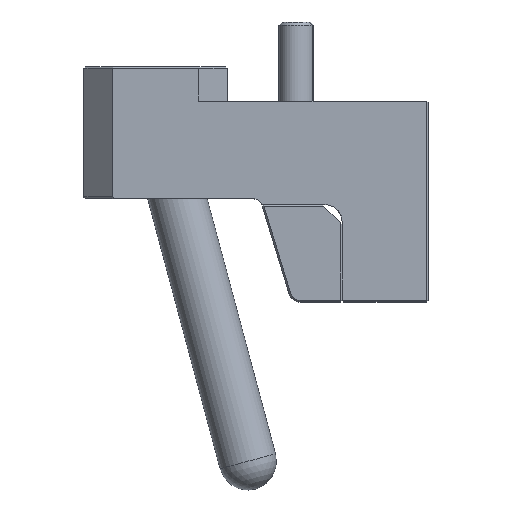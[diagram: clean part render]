
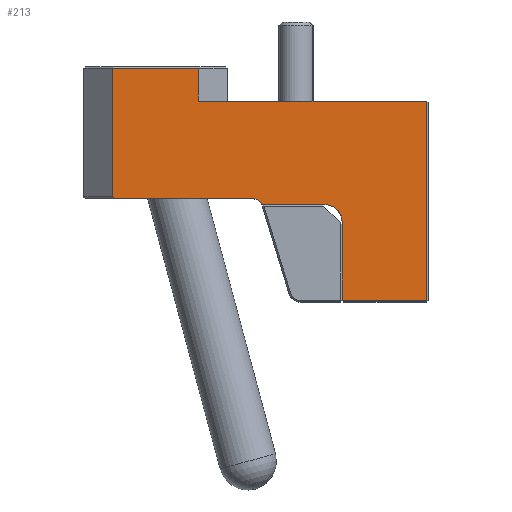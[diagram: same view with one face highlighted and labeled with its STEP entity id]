
A CAD part, top view. The second image highlights one B-rep face of the part: STEP entity #213.
In plain terms, the highlighted planar face has unit normal (0, 0, 1).
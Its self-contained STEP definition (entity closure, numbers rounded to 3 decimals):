
#193 = EDGE_CURVE ( 'NONE', #1016, #954, #1339, .T. ) ;
#196 = EDGE_CURVE ( 'NONE', #994, #980, #1717, .T. ) ;
#213 = ADVANCED_FACE ( 'NONE', ( #1459 ), #1477, .F. ) ;
#238 = EDGE_CURVE ( 'NONE', #953, #975, #1579, .T. ) ;
#241 = EDGE_CURVE ( 'NONE', #980, #977, #2315, .T. ) ;
#246 = EDGE_CURVE ( 'NONE', #993, #953, #2319, .T. ) ;
#248 = EDGE_CURVE ( 'NONE', #975, #994, #2300, .T. ) ;
#726 = ORIENTED_EDGE ( 'NONE', *, *, #1196, .T. ) ;
#735 = ORIENTED_EDGE ( 'NONE', *, *, #246, .T. ) ;
#750 = ORIENTED_EDGE ( 'NONE', *, *, #196, .T. ) ;
#753 = ORIENTED_EDGE ( 'NONE', *, *, #241, .T. ) ;
#755 = ORIENTED_EDGE ( 'NONE', *, *, #1198, .T. ) ;
#759 = ORIENTED_EDGE ( 'NONE', *, *, #1243, .T. ) ;
#760 = ORIENTED_EDGE ( 'NONE', *, *, #238, .T. ) ;
#768 = ORIENTED_EDGE ( 'NONE', *, *, #1204, .T. ) ;
#779 = ORIENTED_EDGE ( 'NONE', *, *, #193, .T. ) ;
#785 = ORIENTED_EDGE ( 'NONE', *, *, #1199, .T. ) ;
#789 = ORIENTED_EDGE ( 'NONE', *, *, #248, .T. ) ;
#794 = ORIENTED_EDGE ( 'NONE', *, *, #1205, .T. ) ;
#944 = VERTEX_POINT ( 'NONE', #3386 ) ;
#953 = VERTEX_POINT ( 'NONE', #3385 ) ;
#954 = VERTEX_POINT ( 'NONE', #3434 ) ;
#958 = VERTEX_POINT ( 'NONE', #3438 ) ;
#961 = VERTEX_POINT ( 'NONE', #3394 ) ;
#975 = VERTEX_POINT ( 'NONE', #3465 ) ;
#977 = VERTEX_POINT ( 'NONE', #3500 ) ;
#980 = VERTEX_POINT ( 'NONE', #3487 ) ;
#987 = VERTEX_POINT ( 'NONE', #3499 ) ;
#993 = VERTEX_POINT ( 'NONE', #3502 ) ;
#994 = VERTEX_POINT ( 'NONE', #3480 ) ;
#1016 = VERTEX_POINT ( 'NONE', #3489 ) ;
#1196 = EDGE_CURVE ( 'NONE', #977, #1016, #3594, .T. ) ;
#1198 = EDGE_CURVE ( 'NONE', #961, #944, #3588, .T. ) ;
#1199 = EDGE_CURVE ( 'NONE', #954, #961, #3612, .T. ) ;
#1204 = EDGE_CURVE ( 'NONE', #944, #987, #3577, .T. ) ;
#1205 = EDGE_CURVE ( 'NONE', #958, #993, #3590, .T. ) ;
#1243 = EDGE_CURVE ( 'NONE', #987, #958, #3916, .T. ) ;
#1339 = LINE ( 'NONE', #1373, #1713 ) ;
#1340 = DIRECTION ( 'NONE',  ( -1., 0., 0. ) ) ;
#1350 = DIRECTION ( 'NONE',  ( 0., 1., 0. ) ) ;
#1354 = DIRECTION ( 'NONE',  ( 0., 0., -1. ) ) ;
#1373 = CARTESIAN_POINT ( 'NONE',  ( 34.7, -1.5, 15. ) ) ;
#1375 = CARTESIAN_POINT ( 'NONE',  ( 17., -4., 15. ) ) ;
#1445 = DIRECTION ( 'NONE',  ( 0., 0., -1. ) ) ;
#1458 = CARTESIAN_POINT ( 'NONE',  ( 4.586, -1.5, 15. ) ) ;
#1459 = FACE_OUTER_BOUND ( 'NONE', #1805, .T. ) ;
#1469 = DIRECTION ( 'NONE',  ( -1., 0., 0. ) ) ;
#1477 = PLANE ( 'NONE',  #1755 ) ;
#1559 = VECTOR ( 'NONE', #2314, 1000. ) ;
#1579 = CIRCLE ( 'NONE', #1587, 1.5 ) ;
#1580 = VECTOR ( 'NONE', #2304, 1000. ) ;
#1587 = AXIS2_PLACEMENT_3D ( 'NONE', #2332, #2288, #2293 ) ;
#1595 = VECTOR ( 'NONE', #2310, 1000. ) ;
#1713 = VECTOR ( 'NONE', #1350, 1000. ) ;
#1717 = CIRCLE ( 'NONE', #1719, 3. ) ;
#1719 = AXIS2_PLACEMENT_3D ( 'NONE', #1375, #1354, #1340 ) ;
#1755 = AXIS2_PLACEMENT_3D ( 'NONE', #1458, #1445, #1469 ) ;
#1805 = EDGE_LOOP ( 'NONE', ( #789, #750, #753, #726, #779, #785, #755, #768, #759, #794, #735, #760 ) ) ;
#2288 = DIRECTION ( 'NONE',  ( 0., 0., -1. ) ) ;
#2293 = DIRECTION ( 'NONE',  ( -1., 0., 0. ) ) ;
#2296 = CARTESIAN_POINT ( 'NONE',  ( 20., -1., 15. ) ) ;
#2300 = LINE ( 'NONE', #2317, #1595 ) ;
#2304 = DIRECTION ( 'NONE',  ( 0., -1., 0. ) ) ;
#2310 = DIRECTION ( 'NONE',  ( 1., 0., 0. ) ) ;
#2314 = DIRECTION ( 'NONE',  ( 1., 0., 0. ) ) ;
#2315 = LINE ( 'NONE', #2296, #1580 ) ;
#2317 = CARTESIAN_POINT ( 'NONE',  ( 6., -1., 15. ) ) ;
#2319 = LINE ( 'NONE', #2330, #1559 ) ;
#2330 = CARTESIAN_POINT ( 'NONE',  ( -25., 0., 15. ) ) ;
#2332 = CARTESIAN_POINT ( 'NONE',  ( 4.586, -1.5, 15. ) ) ;
#2410 = VECTOR ( 'NONE', #3581, 1000. ) ;
#2424 = VECTOR ( 'NONE', #3573, 1000. ) ;
#2425 = VECTOR ( 'NONE', #3605, 1000. ) ;
#2438 = VECTOR ( 'NONE', #3587, 1000. ) ;
#2444 = VECTOR ( 'NONE', #3606, 1000. ) ;
#3385 = CARTESIAN_POINT ( 'NONE',  ( 4.586, 0., 15. ) ) ;
#3386 = CARTESIAN_POINT ( 'NONE',  ( -5., 22.7, 15. ) ) ;
#3394 = CARTESIAN_POINT ( 'NONE',  ( -5., 17., 15. ) ) ;
#3434 = CARTESIAN_POINT ( 'NONE',  ( 34.7, 17., 15. ) ) ;
#3438 = CARTESIAN_POINT ( 'NONE',  ( -20., 0.3, 15. ) ) ;
#3465 = CARTESIAN_POINT ( 'NONE',  ( 6., -1., 15. ) ) ;
#3480 = CARTESIAN_POINT ( 'NONE',  ( 17., -1., 15. ) ) ;
#3487 = CARTESIAN_POINT ( 'NONE',  ( 20., -4., 15. ) ) ;
#3489 = CARTESIAN_POINT ( 'NONE',  ( 34.7, -17.7, 15. ) ) ;
#3499 = CARTESIAN_POINT ( 'NONE',  ( -20., 22.7, 15. ) ) ;
#3500 = CARTESIAN_POINT ( 'NONE',  ( 20., -17.7, 15. ) ) ;
#3502 = CARTESIAN_POINT ( 'NONE',  ( -19.576, 0., 15. ) ) ;
#3573 = DIRECTION ( 'NONE',  ( -1., 0., 0. ) ) ;
#3577 = LINE ( 'NONE', #3580, #2410 ) ;
#3580 = CARTESIAN_POINT ( 'NONE',  ( 4.586, 22.7, 15. ) ) ;
#3581 = DIRECTION ( 'NONE',  ( -1., 0., 0. ) ) ;
#3587 = DIRECTION ( 'NONE',  ( 1., 0., 0. ) ) ;
#3588 = LINE ( 'NONE', #3601, #2425 ) ;
#3590 = LINE ( 'NONE', #3602, #2444 ) ;
#3594 = LINE ( 'NONE', #3597, #2438 ) ;
#3597 = CARTESIAN_POINT ( 'NONE',  ( 4.586, -17.7, 15. ) ) ;
#3601 = CARTESIAN_POINT ( 'NONE',  ( -5., -1.5, 15. ) ) ;
#3602 = CARTESIAN_POINT ( 'NONE',  ( -21.384, 1.279, 15. ) ) ;
#3605 = DIRECTION ( 'NONE',  ( 0., 1., 0. ) ) ;
#3606 = DIRECTION ( 'NONE',  ( 0.816, -0.577, 0. ) ) ;
#3611 = CARTESIAN_POINT ( 'NONE',  ( 35., 17., 15. ) ) ;
#3612 = LINE ( 'NONE', #3611, #2424 ) ;
#3871 = VECTOR ( 'NONE', #3938, 1000. ) ;
#3916 = LINE ( 'NONE', #3955, #3871 ) ;
#3938 = DIRECTION ( 'NONE',  ( 0., -1., 0. ) ) ;
#3955 = CARTESIAN_POINT ( 'NONE',  ( -20., -1.5, 15. ) ) ;
